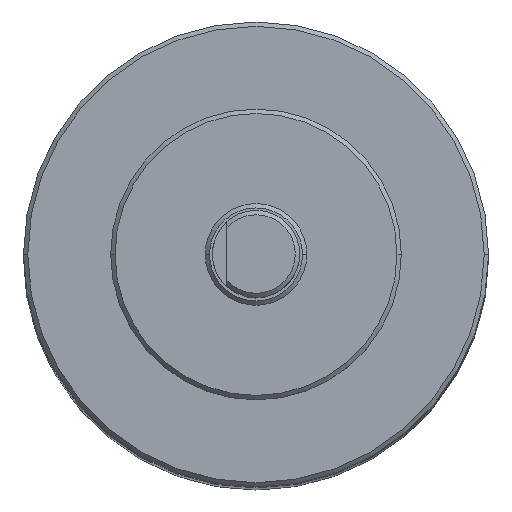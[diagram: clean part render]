
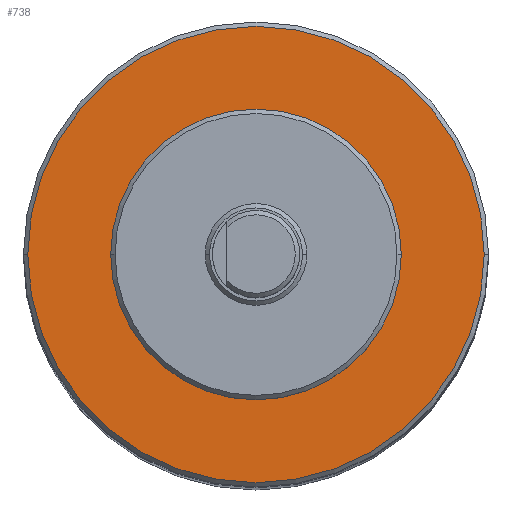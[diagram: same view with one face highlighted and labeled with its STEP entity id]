
A CAD part, top view. The second image highlights one B-rep face of the part: STEP entity #738.
In plain terms, the highlighted planar face has unit normal (0, 0, 1).
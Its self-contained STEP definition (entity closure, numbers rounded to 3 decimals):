
#43 = ORIENTED_EDGE ( 'NONE', *, *, #764, .F. ) ;
#72 = CIRCLE ( 'NONE', #1320, 15.7 ) ;
#89 = VERTEX_POINT ( 'NONE', #356 ) ;
#95 = DIRECTION ( 'NONE',  ( 0., 0., 1. ) ) ;
#163 = DIRECTION ( 'NONE',  ( 0., 0., -1. ) ) ;
#181 = FACE_OUTER_BOUND ( 'NONE', #637, .T. ) ;
#186 = CARTESIAN_POINT ( 'NONE',  ( 10., 0., 136.2 ) ) ;
#233 = CARTESIAN_POINT ( 'NONE',  ( 0., 0., 136.2 ) ) ;
#239 = CARTESIAN_POINT ( 'NONE',  ( 0., 0., 136.2 ) ) ;
#262 = ORIENTED_EDGE ( 'NONE', *, *, #553, .T. ) ;
#308 = CIRCLE ( 'NONE', #1007, 15.7 ) ;
#356 = CARTESIAN_POINT ( 'NONE',  ( 15.7, 0., 136.2 ) ) ;
#384 = CARTESIAN_POINT ( 'NONE',  ( -10., 0., 136.2 ) ) ;
#394 = EDGE_LOOP ( 'NONE', ( #922, #262 ) ) ;
#406 = FACE_BOUND ( 'NONE', #394, .T. ) ;
#408 = EDGE_CURVE ( 'NONE', #856, #817, #870, .T. ) ;
#456 = ORIENTED_EDGE ( 'NONE', *, *, #1352, .F. ) ;
#553 = EDGE_CURVE ( 'NONE', #817, #856, #845, .T. ) ;
#601 = PLANE ( 'NONE',  #752 ) ;
#614 = DIRECTION ( 'NONE',  ( -1., 0., 0. ) ) ;
#637 = EDGE_LOOP ( 'NONE', ( #43, #456 ) ) ;
#642 = DIRECTION ( 'NONE',  ( -1., 0., 0. ) ) ;
#656 = DIRECTION ( 'NONE',  ( 0., 0., -1. ) ) ;
#703 = CARTESIAN_POINT ( 'NONE',  ( 0., 0., 136.2 ) ) ;
#738 = ADVANCED_FACE ( 'NONE', ( #406, #181 ), #601, .T. ) ;
#752 = AXIS2_PLACEMENT_3D ( 'NONE', #703, #95, #1245 ) ;
#764 = EDGE_CURVE ( 'NONE', #1074, #89, #72, .T. ) ;
#817 = VERTEX_POINT ( 'NONE', #186 ) ;
#845 = CIRCLE ( 'NONE', #1251, 10. ) ;
#856 = VERTEX_POINT ( 'NONE', #384 ) ;
#858 = DIRECTION ( 'NONE',  ( 0., 0., -1. ) ) ;
#870 = CIRCLE ( 'NONE', #1048, 10. ) ;
#881 = DIRECTION ( 'NONE',  ( -1., 0., 0. ) ) ;
#921 = CARTESIAN_POINT ( 'NONE',  ( 0., 0., 136.2 ) ) ;
#922 = ORIENTED_EDGE ( 'NONE', *, *, #408, .T. ) ;
#1007 = AXIS2_PLACEMENT_3D ( 'NONE', #233, #858, #642 ) ;
#1016 = CARTESIAN_POINT ( 'NONE',  ( -15.7, 0., 136.2 ) ) ;
#1033 = DIRECTION ( 'NONE',  ( 0., 0., -1. ) ) ;
#1048 = AXIS2_PLACEMENT_3D ( 'NONE', #239, #163, #1097 ) ;
#1074 = VERTEX_POINT ( 'NONE', #1016 ) ;
#1097 = DIRECTION ( 'NONE',  ( -1., 0., 0. ) ) ;
#1245 = DIRECTION ( 'NONE',  ( 1., 0., 0. ) ) ;
#1251 = AXIS2_PLACEMENT_3D ( 'NONE', #1295, #656, #881 ) ;
#1295 = CARTESIAN_POINT ( 'NONE',  ( 0., 0., 136.2 ) ) ;
#1320 = AXIS2_PLACEMENT_3D ( 'NONE', #921, #1033, #614 ) ;
#1352 = EDGE_CURVE ( 'NONE', #89, #1074, #308, .T. ) ;
